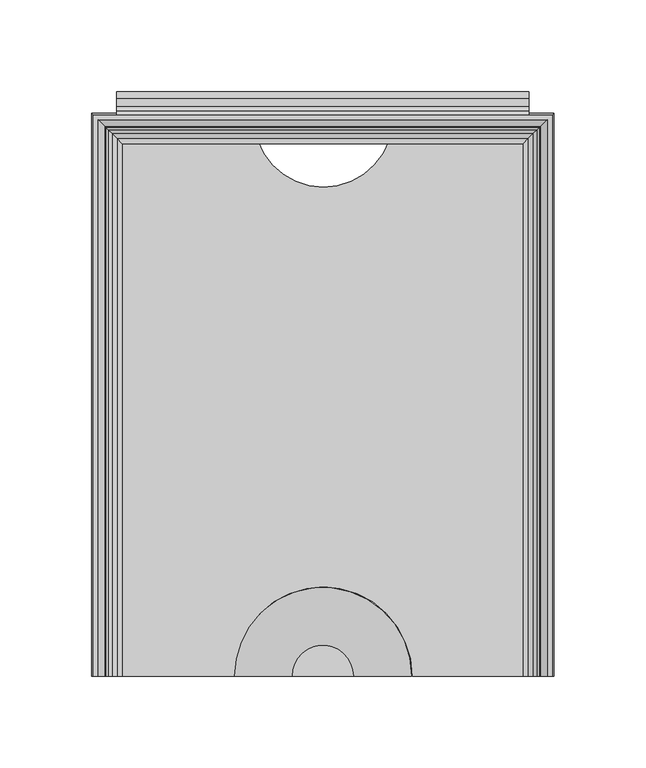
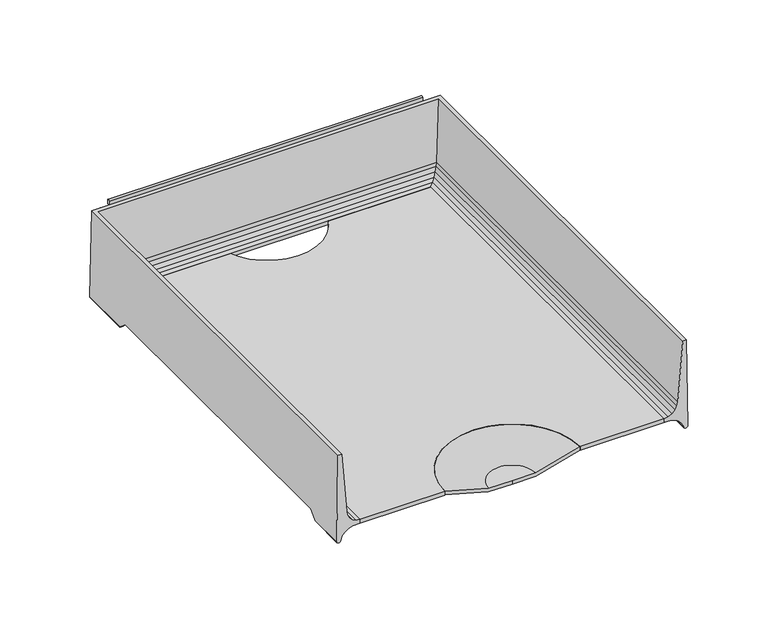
"""IFC4 building model written with IfcOpenShell, lengths in millimetres: furniture geometry."""

from ifc_helpers import new_model, si_unit, point, frame, frame_2d, origin, place, context, project, spatial, polyline, circle_curve, ellipse_curve, trimmed, segment, composite_curve, outline, extrude, source, transform, mapped, element, save
from ifc_brep_helpers import plane_surface, cylinder_surface, revolved_surface, advanced_brep


def furniture_29f4d18c(model_context):
    return source(origin(), model_context, "Body", "SolidModel", [
        advanced_brep(
        [(126.0820502, -154.0206082, 836.3007489), (125.1325529, -154.0206082, 901.7001914), (122.4547921, -154.0206082, 901.7001914), (118.8379747, -154.0206082, 856.9131003), (118.4123648, -154.0206082, 854.1796052), (117.0774354, -154.0206082, 851.4785664), (114.9656457, -154.0206082, 849.3296015), (112.28832, -154.0206082, 847.9477261), (109.3133381, -154.0206082, 847.4712052), (109.3133381, -154.0206082, 844.6490971), (114.5666739, -154.0206082, 844.4560987), (117.605351, -154.0206082, 843.3997218), (120.2416, -154.0206082, 841.5558822), (122.2762142, -154.0206082, 839.0639079), (123.1625518, -154.0206082, 836.0206655), (126.0820502, -127.6379698, 836.3007489), (126.0026181, -121.5231874, 841.771872), (126.0026181, 109.0611937, 841.771872), (126.0820502, 115.1759816, 836.3007489), (126.0820502, 153.036442, 836.3007489), (125.1325529, 152.0869447, 901.7001914), (-125.1325529, 152.0869447, 901.7001914), (-125.1325529, -154.0206082, 901.7001914), (-122.4547921, -154.0206082, 901.7001914), (-122.4547921, 149.4091839, 901.7001914), (122.4547921, 149.4091839, 901.7001914), (118.8379747, 145.7923665, 856.9131003), (118.4123648, 145.3667566, 854.1796052), (117.0774354, 144.0318272, 851.4785664), (114.9656457, 141.9200375, 849.3296015), (112.28832, 139.2427118, 847.9477261), (109.3133381, 136.2677299, 847.4712052), (109.3133381, 136.2677299, 844.6490971), (114.5666739, 141.5210656, 844.4560987), (117.605351, 144.5597428, 843.3997218), (120.2416, 147.1959918, 841.5558822), (120.2416, 109.3025941, 841.5558822), (119.9327864, 109.0611937, 841.771872), (119.9327864, -121.5231874, 841.771872), (120.2416, -121.7645876, 841.5558822), (122.2762142, -124.5497344, 839.0639079), (122.2762142, 149.230606, 839.0639079), (122.2762142, 112.0877435, 839.0639079), (123.1625518, -127.9510041, 836.0206655), (123.1625518, 150.1169436, 836.0206655), (123.1625518, 115.4890162, 836.0206655), (-126.0820502, 153.036442, 836.3007489), (-118.8379747, 145.7923665, 856.9131003), (-118.4123648, 145.3667566, 854.1796052), (-117.0774354, 144.0318272, 851.4785664), (-114.9656457, 141.9200375, 849.3296015), (-112.28832, 139.2427118, 847.9477261), (-109.3133381, 136.2677299, 847.4712052), (-109.3133381, 136.2677299, 844.6490971), (-114.5666739, 141.5210656, 844.4560987), (-117.605351, 144.5597428, 843.3997218), (-120.2416, 147.1959918, 841.5558822), (-122.2762142, 149.230606, 839.0639079), (-123.1625518, 150.1169436, 836.0206655), (-126.0820502, -154.0206082, 836.3007489), (-123.1625518, -154.0206082, 836.0206655), (-122.2762142, -154.0206082, 839.0639079), (-120.2416, -154.0206082, 841.5558822), (-117.605351, -154.0206082, 843.3997218), (-114.5666739, -154.0206082, 844.4560987), (-109.3133381, -154.0206082, 844.6490971), (-109.3133381, -154.0206082, 847.4712052), (-112.28832, -154.0206082, 847.9477261), (-114.9656457, -154.0206082, 849.3296015), (-117.0774354, -154.0206082, 851.4785664), (-118.4123648, -154.0206082, 854.1796052), (-118.8379747, -154.0206082, 856.9131003), (-126.0820502, 115.1759816, 836.3007489), (-126.0026181, 109.0611937, 841.771872), (-126.0026181, -121.5231874, 841.771872), (-126.0820502, -127.6379698, 836.3007489), (-120.2416, -121.7645876, 841.5558822), (-119.9327864, -121.5231874, 841.771872), (-119.9327864, 109.0611937, 841.771872), (-120.2416, 109.3025941, 841.5558822), (-122.2762142, 112.0877435, 839.0639079), (-122.2762142, -124.5497344, 839.0639079), (-123.1625518, 115.4890162, 836.0206655), (-123.1625518, -127.9510041, 836.0206655)],
        [
            (0, 1),
            (1, 2),
            (2, 3),
            (3, 4),
            (4, 5),
            (5, 6),
            (6, 7),
            (7, 8),
            (8, 9),
            (9, 10),
            (10, 11),
            (11, 12),
            (12, 13),
            (13, 14),
            (14, 0, circle_curve(frame((124.5859452, -154.0206082, 836.5396685), z_axis=(0.0, -1.0, 0.0), x_axis=(-1.0, 0.0, 0.0)), 1.515062)),
            (0, 15),
            (15, 16),
            (16, 17),
            (17, 18),
            (18, 19),
            (19, 20),
            (20, 1),
            (20, 21),
            (21, 22),
            (22, 23),
            (23, 24),
            (24, 25),
            (25, 2),
            (25, 26),
            (26, 3),
            (26, 27),
            (27, 4),
            (27, 28),
            (28, 5),
            (28, 29),
            (29, 6),
            (29, 30),
            (30, 7),
            (30, 31),
            (31, 8),
            (31, 32),
            (32, 9),
            (32, 33),
            (33, 10),
            (33, 34),
            (34, 11),
            (34, 35),
            (35, 36),
            (36, 37),
            (37, 38),
            (38, 39),
            (39, 12),
            (39, 40),
            (40, 13),
            (35, 41),
            (41, 42),
            (42, 36),
            (40, 43),
            (43, 14),
            (41, 44),
            (44, 45),
            (45, 42),
            (43, 15, ellipse_curve(frame((124.5859452, -127.3709422, 836.5396685), z_axis=(0.0, -0.6667949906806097, 0.7452411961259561), x_axis=(0.0, -0.7452411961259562, -0.6667949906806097)), 2.2721556, 1.515062)),
            (44, 19, ellipse_curve(frame((124.5859452, 151.540337, 836.5396685), z_axis=(0.7071067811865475, -0.7071067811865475, 0.0), x_axis=(-0.7071067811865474, -0.7071067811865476, 0.0)), 2.1426212, 1.515062)),
            (18, 45, ellipse_curve(frame((124.5859452, 114.9089538, 836.5396685), z_axis=(0.0, 0.6667946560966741, 0.7452414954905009), x_axis=(0.0, -0.7452414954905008, 0.6667946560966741)), 2.2721567, 1.515062)),
            (19, 46),
            (46, 21),
            (24, 47),
            (47, 26),
            (47, 48),
            (48, 27),
            (48, 49),
            (49, 28),
            (49, 50),
            (50, 29),
            (50, 51),
            (51, 30),
            (51, 52),
            (52, 31),
            (52, 53),
            (53, 32),
            (53, 54),
            (54, 33),
            (54, 55),
            (55, 34),
            (55, 56),
            (56, 35),
            (56, 57),
            (57, 41),
            (57, 58),
            (58, 44),
            (58, 46, ellipse_curve(frame((-124.5859452, 151.540337, 836.5396685), z_axis=(0.7071067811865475, 0.7071067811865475, 0.0), x_axis=(0.7071067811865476, -0.7071067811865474, 0.0)), 2.1426212, 1.515062)),
            (22, 59),
            (59, 60, circle_curve(frame((-124.5859452, -154.0206082, 836.5396685), z_axis=(0.0, -1.0, 0.0), x_axis=(1.0, 0.0, 0.0)), 1.515062)),
            (60, 61),
            (61, 62),
            (62, 63),
            (63, 64),
            (64, 65),
            (65, 66),
            (66, 67),
            (67, 68),
            (68, 69),
            (69, 70),
            (70, 71),
            (71, 23),
            (46, 72),
            (72, 73),
            (73, 74),
            (74, 75),
            (75, 59),
            (71, 47),
            (70, 48),
            (69, 49),
            (68, 50),
            (67, 51),
            (66, 52),
            (65, 53),
            (64, 54),
            (63, 55),
            (62, 76),
            (76, 77),
            (77, 78),
            (78, 79),
            (79, 56),
            (79, 80),
            (80, 57),
            (61, 81),
            (81, 76),
            (80, 82),
            (82, 58),
            (60, 83),
            (83, 81),
            (82, 72, ellipse_curve(frame((-124.5859452, 114.9089538, 836.5396685), z_axis=(0.0, 0.6667946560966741, 0.7452414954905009), x_axis=(0.0, 0.7452414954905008, -0.6667946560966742)), 2.2721567, 1.515062)),
            (75, 83, ellipse_curve(frame((-124.5859452, -127.3709422, 836.5396685), z_axis=(0.0, -0.6667949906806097, 0.7452411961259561), x_axis=(0.0, 0.745241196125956, 0.6667949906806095)), 2.2721556, 1.515062)),
            (38, 16),
            (74, 77),
            (37, 17),
            (73, 78),
        ],
        [
            plane_surface(frame((127.0, -154.0206082, 835.025), z_axis=(0.0, -1.0, 0.0), x_axis=(0.0, 0.0, 1.0))),
            plane_surface(frame((126.0820502, -154.0206082, 836.3007489), z_axis=(0.9998946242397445, 0.0, 0.014516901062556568), x_axis=(0.0, 1.0, 0.0))),
            plane_surface(frame((125.1325529, -154.0206082, 901.7001914), z_axis=(0.0, 0.0, 1.0), x_axis=(0.0, 1.0, 0.0))),
            plane_surface(frame((122.4547921, -154.0206082, 901.7001914), z_axis=(-0.9967551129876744, 0.0, 0.08049375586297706), x_axis=(0.0, 1.0, 0.0))),
            plane_surface(frame((118.8379747, -154.0206082, 856.9131003), z_axis=(-0.9880945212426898, 0.0, 0.15384803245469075), x_axis=(0.0, 1.0, 0.0))),
            plane_surface(frame((118.4123648, -154.0206082, 854.1796052), z_axis=(-0.8964873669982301, 0.0, 0.44306929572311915), x_axis=(0.0, 1.0, 0.0))),
            plane_surface(frame((117.0774354, -154.0206082, 851.4785664), z_axis=(-0.7132491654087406, 0.0, 0.7009105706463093), x_axis=(0.0, 1.0, 0.0))),
            plane_surface(frame((114.9656457, -154.0206082, 849.3296015), z_axis=(-0.45865074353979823, 0.0, 0.8886166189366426), x_axis=(0.0, 1.0, 0.0))),
            plane_surface(frame((112.28832, -154.0206082, 847.9477261), z_axis=(-0.15816001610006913, 0.0, 0.987413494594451), x_axis=(0.0, 1.0, 0.0))),
            plane_surface(frame((109.3133381, -154.0206082, 847.4712052), z_axis=(-1.0, 0.0, 0.0), x_axis=(0.0, 1.0, 0.0))),
            plane_surface(frame((109.3133381, -154.0206082, 844.6490971), z_axis=(-0.036713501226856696, 0.0, -0.9993258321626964), x_axis=(0.0, 1.0, 0.0))),
            plane_surface(frame((114.5666739, -154.0206082, 844.4560987), z_axis=(-0.3283669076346, 0.0, -0.9445502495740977), x_axis=(0.0, 1.0, 0.0))),
            plane_surface(frame((117.605351, -154.0206082, 843.3997218), z_axis=(-0.5731421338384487, 0.0, -0.819455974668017), x_axis=(0.0, 1.0, 0.0))),
            plane_surface(frame((120.2416, -154.0206082, 841.5558822), z_axis=(-0.77460799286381, 0.0, -0.6324416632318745), x_axis=(0.0, 1.0, 0.0))),
            plane_surface(frame((122.2762142, -154.0206082, 839.0639079), z_axis=(-0.9601080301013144, 0.0, -0.2796293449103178), x_axis=(0.0, 1.0, 0.0))),
            cylinder_surface(frame((124.5859452, -154.0206082, 836.5396685), z_axis=(0.0, -1.0, 0.0), x_axis=(-1.0, 0.0, 0.0)), 1.515062),
            plane_surface(frame((126.0820502, 153.036442, 836.3007489), z_axis=(0.0, 0.9998946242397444, 0.014516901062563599), x_axis=(-1.0, 0.0, 0.0))),
            plane_surface(frame((122.4547921, 149.4091839, 901.7001914), z_axis=(0.0, -0.9967551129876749, 0.08049375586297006), x_axis=(-1.0, 0.0, 0.0))),
            plane_surface(frame((118.8379747, 145.7923665, 856.9131003), z_axis=(0.0, -0.9880945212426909, 0.15384803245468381), x_axis=(-1.0, 0.0, 0.0))),
            plane_surface(frame((118.4123648, 145.3667566, 854.1796052), z_axis=(0.0, -0.8964873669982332, 0.4430692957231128), x_axis=(-1.0, 0.0, 0.0))),
            plane_surface(frame((117.0774354, 144.0318272, 851.4785664), z_axis=(0.0, -0.7132491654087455, 0.7009105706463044), x_axis=(-1.0, 0.0, 0.0))),
            plane_surface(frame((114.9656457, 141.9200375, 849.3296015), z_axis=(0.0, -0.4586507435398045, 0.8886166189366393), x_axis=(-1.0, 0.0, 0.0))),
            plane_surface(frame((112.28832, 139.2427118, 847.9477261), z_axis=(0.0, -0.15816001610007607, 0.9874134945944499), x_axis=(-1.0, 0.0, 0.0))),
            plane_surface(frame((109.3133381, 136.2677299, 847.4712052), z_axis=(0.0, -1.0, 0.0), x_axis=(-1.0, 0.0, 0.0))),
            plane_surface(frame((109.3133381, 136.2677299, 844.6490971), z_axis=(0.0, -0.03671350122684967, -0.9993258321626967), x_axis=(-1.0, 0.0, 0.0))),
            plane_surface(frame((114.5666739, 141.5210656, 844.4560987), z_axis=(0.0, -0.32836690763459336, -0.9445502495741), x_axis=(-1.0, 0.0, 0.0))),
            plane_surface(frame((117.605351, 144.5597428, 843.3997218), z_axis=(0.0, -0.5731421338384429, -0.819455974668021), x_axis=(-1.0, 0.0, 0.0))),
            plane_surface(frame((120.2416, 147.1959918, 841.5558822), z_axis=(0.0, -0.7746079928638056, -0.6324416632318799), x_axis=(-1.0, 0.0, 0.0))),
            plane_surface(frame((122.2762142, 149.230606, 839.0639079), z_axis=(0.0, -0.9601080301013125, -0.27962934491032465), x_axis=(-1.0, 0.0, 0.0))),
            cylinder_surface(frame((127.0, 151.540337, 836.5396685), z_axis=(1.0, 0.0, 0.0), x_axis=(0.0, -1.0, 0.0)), 1.515062),
            plane_surface(frame((-127.0, -154.0206082, 835.025), z_axis=(0.0, -1.0, 0.0), x_axis=(0.0, 0.0, 1.0))),
            plane_surface(frame((-126.0820502, 153.036442, 836.3007489), z_axis=(-0.9998946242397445, 0.0, 0.014516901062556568), x_axis=(0.0, -1.0, 0.0))),
            plane_surface(frame((-122.4547921, 149.4091839, 901.7001914), z_axis=(0.9967551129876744, 0.0, 0.08049375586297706), x_axis=(0.0, -1.0, 0.0))),
            plane_surface(frame((-118.8379747, 145.7923665, 856.9131003), z_axis=(0.9880945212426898, 0.0, 0.15384803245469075), x_axis=(0.0, -1.0, 0.0))),
            plane_surface(frame((-118.4123648, 145.3667566, 854.1796052), z_axis=(0.8964873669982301, 0.0, 0.44306929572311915), x_axis=(0.0, -1.0, 0.0))),
            plane_surface(frame((-117.0774354, 144.0318272, 851.4785664), z_axis=(0.7132491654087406, 0.0, 0.7009105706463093), x_axis=(0.0, -1.0, 0.0))),
            plane_surface(frame((-114.9656457, 141.9200375, 849.3296015), z_axis=(0.45865074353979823, 0.0, 0.8886166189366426), x_axis=(0.0, -1.0, 0.0))),
            plane_surface(frame((-112.28832, 139.2427118, 847.9477261), z_axis=(0.15816001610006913, 0.0, 0.987413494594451), x_axis=(0.0, -1.0, 0.0))),
            plane_surface(frame((-109.3133381, 136.2677299, 847.4712052), z_axis=(1.0, 0.0, 0.0), x_axis=(0.0, -1.0, 0.0))),
            plane_surface(frame((-109.3133381, 136.2677299, 844.6490971), z_axis=(0.036713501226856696, 0.0, -0.9993258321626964), x_axis=(0.0, -1.0, 0.0))),
            plane_surface(frame((-114.5666739, 141.5210656, 844.4560987), z_axis=(0.3283669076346, 0.0, -0.9445502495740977), x_axis=(0.0, -1.0, 0.0))),
            plane_surface(frame((-117.605351, 144.5597428, 843.3997218), z_axis=(0.5731421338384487, 0.0, -0.819455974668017), x_axis=(0.0, -1.0, 0.0))),
            plane_surface(frame((-120.2416, 147.1959918, 841.5558822), z_axis=(0.77460799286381, 0.0, -0.6324416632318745), x_axis=(0.0, -1.0, 0.0))),
            plane_surface(frame((-122.2762142, 149.230606, 839.0639079), z_axis=(0.9601080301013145, 0.0, -0.2796293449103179), x_axis=(0.0, -1.0, 0.0))),
            cylinder_surface(frame((-124.5859452, 153.9543918, 836.5396685), z_axis=(0.0, 1.0, 0.0), x_axis=(1.0, 0.0, 0.0)), 1.515062),
            plane_surface(frame((-127.0, -130.1695728, 834.0356296), z_axis=(0.0, 0.6667949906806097, -0.7452411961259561), x_axis=(1.0, 0.0, 0.0))),
            plane_surface(frame((-127.0, -121.5231874, 841.771872), z_axis=(0.0, 0.0, -1.0), x_axis=(1.0, 0.0, 0.0))),
            plane_surface(frame((-127.0, 109.0611937, 841.771872), z_axis=(0.0, -0.6667946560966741, -0.7452414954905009), x_axis=(1.0, 0.0, 0.0))),
        ],
        [
            (0, [[1, 2, 3, 4, 5, 6, 7, 8, 9, 10, 11, 12, 13, 14, 15]]),
            (1, [[-1, 16, 17, 18, 19, 20, 21, 22]]),
            (2, [[-2, -22, 23, 24, 25, 26, 27, 28]]),
            (3, [[-3, -28, 29, 30]]),
            (4, [[-4, -30, 31, 32]]),
            (5, [[-5, -32, 33, 34]]),
            (6, [[-6, -34, 35, 36]]),
            (7, [[-7, -36, 37, 38]]),
            (8, [[-8, -38, 39, 40]]),
            (9, [[-9, -40, 41, 42]]),
            (10, [[-10, -42, 43, 44]]),
            (11, [[-11, -44, 45, 46]]),
            (12, [[-12, -46, 47, 48, 49, 50, 51, 52]]),
            (13, [[-13, -52, 53, 54]]),
            (13, [[55, 56, 57, -48]]),
            (14, [[-14, -54, 58, 59]]),
            (14, [[60, 61, 62, -56]]),
            (15, [[-15, -59, 63, -16]]),
            (15, [[64, -20, 65, -61]]),
            (16, [[-21, 66, 67, -23]]),
            (17, [[-27, 68, 69, -29]]),
            (18, [[-31, -69, 70, 71]]),
            (19, [[-33, -71, 72, 73]]),
            (20, [[-35, -73, 74, 75]]),
            (21, [[-37, -75, 76, 77]]),
            (22, [[-39, -77, 78, 79]]),
            (23, [[-41, -79, 80, 81]]),
            (24, [[-43, -81, 82, 83]]),
            (25, [[-45, -83, 84, 85]]),
            (26, [[-47, -85, 86, 87]]),
            (27, [[-55, -87, 88, 89]]),
            (28, [[-60, -89, 90, 91]]),
            (29, [[-64, -91, 92, -66]]),
            (30, [[-25, 93, 94, 95, 96, 97, 98, 99, 100, 101, 102, 103, 104, 105, 106]]),
            (31, [[-24, -67, 107, 108, 109, 110, 111, -93]]),
            (32, [[-26, -106, 112, -68]]),
            (33, [[-70, -112, -105, 113]]),
            (34, [[-72, -113, -104, 114]]),
            (35, [[-74, -114, -103, 115]]),
            (36, [[-76, -115, -102, 116]]),
            (37, [[-78, -116, -101, 117]]),
            (38, [[-80, -117, -100, 118]]),
            (39, [[-82, -118, -99, 119]]),
            (40, [[-84, -119, -98, 120]]),
            (41, [[-86, -120, -97, 121, 122, 123, 124, 125]]),
            (42, [[-88, -125, 126, 127]]),
            (42, [[-96, 128, 129, -121]]),
            (43, [[-90, -127, 130, 131]]),
            (43, [[-95, 132, 133, -128]]),
            (44, [[-92, -131, 134, -107]]),
            (44, [[-94, -111, 135, -132]]),
            (45, [[136, -17, -63, -58, -53, -51]]),
            (45, [[137, -122, -129, -133, -135, -110]]),
            (46, [[-136, -50, 138, -18]]),
            (46, [[-137, -109, 139, -123]]),
            (47, [[-138, -49, -57, -62, -65, -19]]),
            (47, [[-139, -108, -134, -130, -126, -124]]),
        ],
    ),
        extrude(outline(composite_curve([segment(polyline([(-109.3647805, 138.2769393), (-35.6610422, 138.2769393)]), True, "CONTINUOUS"), segment(trimmed(circle_curve(frame_2d((0.3369133, 150.6584166)), 38.0677525), [point((-35.6610422, 138.2769393))], [point((36.3348688, 138.2769393))], True, "CARTESIAN"), True, "CONTINUOUS"), segment(polyline([(36.3348688, 138.2769393), (109.6504969, 138.2769393), (109.6504969, -153.9875), (48.9112184, -153.9875)]), True, "CONTINUOUS"), segment(trimmed(circle_curve(frame_2d((0.2842795, -153.9323196)), 48.6269702), [point((48.9112184, -153.9875))], [point((-48.3426595, -153.9875))], True, "CARTESIAN"), True, "CONTINUOUS"), segment(polyline([(-48.3426595, -153.9875), (-109.3647805, -153.9875), (-109.3647805, 138.2769393)]), True, "CONTINUOUS")], self_intersect=False)), frame((0.0, 0.0, 844.6314677), z_axis=(0.0, 0.0, 1.0), x_axis=(1.0, 0.0, 0.0)), (0.0, 0.0, 1.0), 2.8395461),
        extrude(outline(composite_curve([segment(trimmed(circle_curve(frame_2d((162.7186949, 885.8707343)), 1.9049988), [point((164.6236937, 885.8707343))], [point((160.8136962, 885.8707343))], False, "CARTESIAN"), True, "CONTINUOUS"), segment(polyline([(160.8136962, 885.8707343), (160.8136962, 889.2997311), (160.0516969, 890.0617303), (156.4380325, 890.0617303), (152.1427596, 887.7143331), (152.1427596, 896.2191285), (156.4380325, 893.8717312), (160.8136928, 893.8717312)]), True, "CONTINUOUS"), segment(trimmed(circle_curve(frame_2d((160.8136928, 890.0617303)), 3.8100009), [point((160.8136928, 893.8717312))], [point((164.6236937, 890.0617303))], False, "CARTESIAN"), True, "CONTINUOUS"), segment(polyline([(164.6236937, 890.0617303), (164.6236937, 885.8707343)]), True, "CONTINUOUS")], self_intersect=False)), frame((-112.5397809, 0.0, 0.0), z_axis=(1.0, 0.0, 0.0), x_axis=(0.0, 1.0, 0.0)), (0.0, 0.0, 1.0), 225.0795617),
        advanced_brep(
        [(-16.8929028, -153.9875, 838.596875), (-48.4614622, -153.9875, 847.5045432), (-48.4614622, -153.9875, 844.9130018), (-16.9249292, -153.9875, 836.0143704), (0.0, -153.9875, 836.0143704), (0.0, -153.9875, 838.596875), (16.8929028, -153.9875, 838.596875), (16.9249292, -153.9875, 836.0143704), (48.4614622, -153.9875, 844.9130018), (48.4614622, -153.9875, 847.5045432)],
        [
            (0, 1),
            (1, 2),
            (2, 3),
            (3, 4),
            (4, 5),
            (5, 0),
            (6, 5),
            (4, 7),
            (7, 8),
            (8, 9),
            (9, 6),
            (9, 1, circle_curve(frame((0.0, -153.9875, 847.5045432), z_axis=(0.0, 0.0, 1.0), x_axis=(-1.0, 0.0, 0.0)), 48.4614622)),
            (0, 6, circle_curve(frame((0.0, -153.9875, 838.596875), z_axis=(0.0, 0.0, -1.0), x_axis=(-1.0, 0.0, 0.0)), 16.8929028)),
            (8, 2, circle_curve(frame((0.0, -153.9875, 844.9130018), z_axis=(0.0, 0.0, 1.0), x_axis=(-1.0, 0.0, 0.0)), 48.4614622)),
            (7, 3, circle_curve(frame((0.0, -153.9875, 836.0143704), z_axis=(0.0, 0.0, 1.0), x_axis=(-1.0, 0.0, 0.0)), 16.9249292)),
        ],
        [
            plane_surface(frame((0.0, -153.9875, 835.025), z_axis=(0.0, -1.0, 0.0), x_axis=(-1.0, 0.0, 0.0))),
            plane_surface(frame((0.0, -153.9875, 835.025), z_axis=(0.0, -1.0, 0.0), x_axis=(1.0, 0.0, 0.0))),
            revolved_surface(polyline([(-48.4614622, -153.9875, 847.5045432), (-16.8929028, -153.9875, 838.596875)]), (0.0, -153.9875, 835.025), (0.0, 0.0, 1.0)),
            cylinder_surface(frame((0.0, -153.9875, 835.025), z_axis=(0.0, 0.0, 1.0), x_axis=(-1.0, 0.0, 0.0)), 48.4614622),
            revolved_surface(polyline([(-16.9249292, -153.9875, 836.0143704), (-48.4614622, -153.9875, 844.9130018)]), (0.0, -153.9875, 835.025), (0.0, 0.0, 1.0)),
            plane_surface(frame((0.0, -153.9875, 836.0143704), z_axis=(0.0, 0.0, -1.0), x_axis=(-1.0, 0.0, 0.0))),
            plane_surface(frame((0.0, -153.9875, 838.596875), z_axis=(0.0, 0.0, 1.0), x_axis=(-1.0, 0.0, 0.0))),
        ],
        [
            (0, [[1, 2, 3, 4, 5, 6]]),
            (1, [[7, -5, 8, 9, 10, 11]]),
            (2, [[12, -1, 13, -11]]),
            (3, [[14, -2, -12, -10]]),
            (4, [[15, -3, -14, -9]]),
            (5, [[-4, -15, -8]]),
            (6, [[-13, -6, -7]]),
        ],
    ),
        extrude(outline(composite_curve([segment(polyline([(153.9875, 901.7), (152.1427596, 901.7), (152.1427596, 904.5315333)]), True, "CONTINUOUS"), segment(trimmed(circle_curve(frame_2d((153.0651298, 904.2262665)), 0.9715733), [point((152.1427596, 904.5315333))], [point((153.9875, 904.5315333))], False, "CARTESIAN"), True, "CONTINUOUS"), segment(polyline([(153.9875, 904.5315333), (153.9875, 901.7)]), True, "CONTINUOUS")], self_intersect=False)), frame((-112.5397809, 0.0, 0.0), z_axis=(1.0, 0.0, 0.0), x_axis=(0.0, 1.0, 0.0)), (0.0, 0.0, 1.0), 225.0795617),
    ])


if __name__ == "__main__":
    model = new_model("IFC4")
    model_context = context("Model", 3, world=origin())
    ifc_project = project(units=[si_unit("LENGTHUNIT", "METRE", prefix="MILLI")], contexts=[model_context])
    site = spatial("IfcSite", under=ifc_project)
    building = spatial("IfcBuilding", under=site)
    placement = place(None, origin())
    furniture_shape = furniture_29f4d18c(model_context)
    element("IfcFurniture", 1, ObjectType="HermanMiller_ThrivePortfolio_Y7216_PaperTray : 3\"H x 12\"D x 10\"W", at=placement, inside=building, context=model_context, shape_type="MappedRepresentation", body=[
        mapped(furniture_shape, transform((0.0, 0.0, 0.0), x_axis=(1.0, 0.0, 0.0), y_axis=(0.0, 1.0, 0.0), z_axis=(0.0, 0.0, 1.0))),
    ])
    save(model, "model.ifc")
